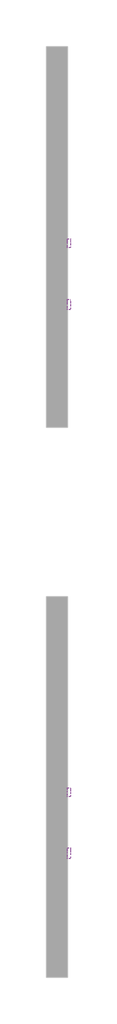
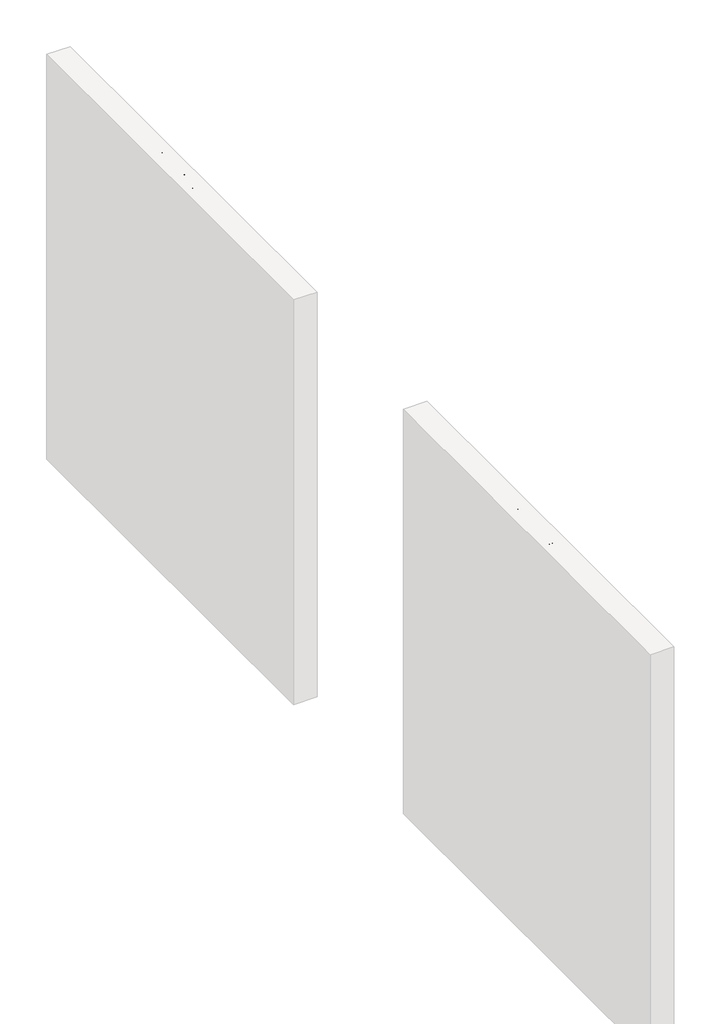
# One storey, part 6 of 10: 4 proxies.
"""IFC4 building model written with IfcOpenShell, lengths in millimetres."""

from ifc_helpers import new_model, si_unit, frame, origin, place, context, project, spatial, polyline, outline, extrude, element, save

model = new_model("IFC4")

# Units and contexts
model_context = context("Model", 3, world=origin())
ifc_project = project(units=[si_unit("LENGTHUNIT", "METRE", prefix="MILLI")], contexts=[model_context])

# Site, building, storey
site = spatial("IfcSite", under=ifc_project)
building = spatial("IfcBuilding", under=site)
storey = spatial("IfcBuildingStorey", under=building, Name="PORTOBELLO - SHOWROOM", Elevation=0.0)

# Proxies
placement = place(None, origin())
element("IfcBuildingElementProxy", 1, Name="10mm Arial", ObjectType="10mm Arial", at=placement, inside=storey, context=model_context, shape_type="SweptSolid", body=[
    extrude(outline(polyline([(721.5221036, 2576.9310806), (734.0791424, 2578.5497614), (738.371099, 2563.7118542), (748.9661005, 2559.7142032), (757.5622764, 2561.9828089), (762.5409461, 2568.1632264), (763.9021095, 2580.6099005), (763.9021095, 2649.1831044), (776.4591482, 2649.1831044), (776.4591482, 2580.8306297), (773.4302531, 2561.3206213), (763.8162703, 2550.7869335), (748.3774893, 2547.1571645), (736.7708123, 2549.0302969), (728.2420814, 2554.6496944), (723.067208, 2563.9663059), (721.5221036, 2576.9310806)])), frame((151543.1527225, 0.0, 0.0), z_axis=(1.0, 0.0, 0.0), x_axis=(0.0, 1.0, 0.0)), (0.0, 0.0, 1.0), 20.0),
    extrude(outline(polyline([(843.9532316, 2558.1445734), (831.7763376, 2549.6342366), (818.3241193, 2547.1571645), (807.8302854, 2548.6470865), (800.0894351, 2553.1168528), (795.3161662, 2559.9042756), (793.7250765, 2568.3471674), (796.1285722, 2578.2799812), (802.4438798, 2585.4904683), (811.2362595, 2589.6107467), (822.1010411, 2591.4992076), (843.8796552, 2595.8156897), (843.9532316, 2598.6115928), (840.4951409, 2607.8822191), (826.6137269, 2611.5119881), (813.9095353, 2609.0962297), (807.8517452, 2600.5245792), (795.2947064, 2602.0942091), (800.7270972, 2614.3569422), (811.6654552, 2621.5429039), (828.2324077, 2624.0690269), (843.4504596, 2621.8372095), (852.0466355, 2616.2331404), (855.8971337, 2607.7105409), (856.5102704, 2596.7231319), (856.5102704, 2581.1004099), (857.1479325, 2559.2850076), (859.6495301, 2548.7267943), (847.0924913, 2548.7267943), (843.9532316, 2558.1445734)]), holes=[polyline([(843.9532316, 2583.2586509), (823.6951964, 2579.4081527), (812.8917285, 2577.372539), (807.998898, 2574.061601), (806.2821153, 2569.2300842), (810.0222489, 2562.43653), (820.9973951, 2559.7142032), (833.7015867, 2562.7185728), (841.8930924, 2569.9903736), (843.8796552, 2579.7024583), (843.9532316, 2583.2586509)])]), frame((151543.1527225, 0.0, 0.0), z_axis=(1.0, 0.0, 0.0), x_axis=(0.0, 1.0, 0.0)), (0.0, 0.0, 1.0), 20.0),
    extrude(outline(polyline([(920.8650941, 2575.4105017), (933.4221328, 2573.8408718), (929.9211225, 2562.6725876), (923.3421662, 2554.2327615), (914.3045318, 2548.9260637), (903.4274875, 2547.1571645), (890.0703054, 2549.6250395), (879.6255224, 2557.0286647), (872.8840849, 2569.0430775), (870.636939, 2585.3433156), (874.4751745, 2606.2022247), (886.1738219, 2619.605392), (903.2558092, 2624.0690269), (913.8661391, 2622.5361853), (922.3488848, 2617.9376603), (928.4342661, 2610.5187068), (931.852503, 2600.5245792), (919.2954642, 2598.9549494), (913.470666, 2608.3604657), (903.3539111, 2611.5119881), (895.2390474, 2609.9607524), (888.7980468, 2605.3070452), (884.594995, 2597.2994804), (883.1939778, 2585.6866721), (884.5643382, 2573.9175139), (888.6754195, 2565.882358), (894.9999241, 2561.2562419), (903.0105546, 2559.7142032), (914.8440921, 2563.5647014), (920.8650941, 2575.4105017)])), frame((151543.1527225, 0.0, 0.0), z_axis=(1.0, 0.0, 0.0), x_axis=(0.0, 1.0, 0.0)), (0.0, 0.0, 1.0), 20.0),
    extrude(outline(polyline([(991.4984371, 2558.1445734), (979.3215431, 2549.6342366), (965.8693248, 2547.1571645), (955.3754909, 2548.6470865), (947.6346406, 2553.1168528), (942.8613717, 2559.9042756), (941.2702821, 2568.3471674), (943.6737778, 2578.2799812), (949.9890854, 2585.4904683), (958.781465, 2589.6107467), (969.6462466, 2591.4992076), (991.4248608, 2595.8156897), (991.4984371, 2598.6115928), (988.0403464, 2607.8822191), (974.1589324, 2611.5119881), (961.4547409, 2609.0962297), (955.3969507, 2600.5245792), (942.8399119, 2602.0942091), (948.2723027, 2614.3569422), (959.2106607, 2621.5429039), (975.7776132, 2624.0690269), (990.9956651, 2621.8372095), (999.591841, 2616.2331404), (1003.4423393, 2607.7105409), (1004.0554759, 2596.7231319), (1004.0554759, 2581.1004099), (1004.693138, 2559.2850076), (1007.1947356, 2548.7267943), (994.6376968, 2548.7267943), (991.4984371, 2558.1445734)]), holes=[polyline([(991.4984371, 2583.2586509), (971.2404019, 2579.4081527), (960.436934, 2577.372539), (955.5441035, 2574.061601), (953.8273208, 2569.2300842), (957.5674545, 2562.43653), (968.5426007, 2559.7142032), (981.2467922, 2562.7185728), (989.438298, 2569.9903736), (991.4248608, 2579.7024583), (991.4984371, 2583.2586509)])]), frame((151543.1527225, 0.0, 0.0), z_axis=(1.0, 0.0, 0.0), x_axis=(0.0, 1.0, 0.0)), (0.0, 0.0, 1.0), 20.0),
    extrude(outline(polyline([(1021.3214042, 2548.7267943), (1021.3214042, 2622.4993971), (1032.3088131, 2622.4993971), (1032.3088131, 2611.5855645), (1040.1079114, 2621.6410057), (1047.9560607, 2624.0690269), (1060.5621504, 2620.1940032), (1056.3682956, 2608.9368142), (1047.5391277, 2611.5119881), (1040.4390052, 2609.034916), (1035.9140567, 2602.1677855), (1033.878443, 2587.5015566), (1033.878443, 2548.7267943), (1021.3214042, 2548.7267943)])), frame((151543.1527225, 0.0, 0.0), z_axis=(1.0, 0.0, 0.0), x_axis=(0.0, 1.0, 0.0)), (0.0, 0.0, 1.0), 20.0),
    extrude(outline(polyline([(1115.499195, 2558.1445734), (1103.3223009, 2549.6342366), (1089.8700827, 2547.1571645), (1079.3762487, 2548.6470865), (1071.6353984, 2553.1168528), (1066.8621295, 2559.9042756), (1065.2710399, 2568.3471674), (1067.6745356, 2578.2799812), (1073.9898432, 2585.4904683), (1082.7822229, 2589.6107467), (1093.6470045, 2591.4992076), (1115.4256186, 2595.8156897), (1115.499195, 2598.6115928), (1112.0411042, 2607.8822191), (1098.1596903, 2611.5119881), (1085.4554987, 2609.0962297), (1079.3977085, 2600.5245792), (1066.8406698, 2602.0942091), (1072.2730606, 2614.3569422), (1083.2114185, 2621.5429039), (1099.7783711, 2624.0690269), (1114.9964229, 2621.8372095), (1123.5925989, 2616.2331404), (1127.4430971, 2607.7105409), (1128.0562338, 2596.7231319), (1128.0562338, 2581.1004099), (1128.6938959, 2559.2850076), (1131.1954935, 2548.7267943), (1118.6384547, 2548.7267943), (1115.499195, 2558.1445734)]), holes=[polyline([(1115.499195, 2583.2586509), (1095.2411598, 2579.4081527), (1084.4376919, 2577.372539), (1079.5448613, 2574.061601), (1077.8280787, 2569.2300842), (1081.5682123, 2562.43653), (1092.5433585, 2559.7142032), (1105.2475501, 2562.7185728), (1113.4390558, 2569.9903736), (1115.4256186, 2579.7024583), (1115.499195, 2583.2586509)])]), frame((151543.1527225, 0.0, 0.0), z_axis=(1.0, 0.0, 0.0), x_axis=(0.0, 1.0, 0.0)), (0.0, 0.0, 1.0), 20.0),
    extrude(outline(polyline([(1145.3221621, 2548.7267943), (1145.3221621, 2622.4993971), (1157.8792008, 2622.4993971), (1157.8792008, 2612.1987012), (1167.4809209, 2621.1014455), (1180.5897827, 2624.0690269), (1192.4478456, 2621.6777939), (1200.5412495, 2615.3992746), (1204.3059086, 2606.1654365), (1204.9680962, 2594.0253306), (1204.9680962, 2548.7267943), (1192.4110574, 2548.7267943), (1192.4110574, 2592.3330735), (1190.9640549, 2603.4431097), (1185.8504952, 2609.3169589), (1177.2297938, 2611.5119881), (1163.6058972, 2606.5823694), (1159.3108749, 2599.4393273), (1157.8792008, 2587.8694386), (1157.8792008, 2548.7267943), (1145.3221621, 2548.7267943)])), frame((151543.1527225, 0.0, 0.0), z_axis=(1.0, 0.0, 0.0), x_axis=(0.0, 1.0, 0.0)), (0.0, 0.0, 1.0), 20.0),
    extrude(outline(polyline([(1267.7532901, 2548.7267943), (1267.7532901, 2560.5725945), (1259.4452883, 2550.511022), (1247.9612387, 2547.1571645), (1232.4120931, 2552.0132068), (1221.4246841, 2565.5635269), (1217.525135, 2585.5395193), (1221.1181158, 2605.5277744), (1231.8847955, 2619.286561), (1247.9121878, 2624.0690269), (1259.4882079, 2620.6477244), (1267.7532901, 2611.7572428), (1267.7532901, 2649.1831044), (1280.3103288, 2649.1831044), (1280.3103288, 2548.7267943), (1267.7532901, 2548.7267943)]), holes=[polyline([(1230.0821738, 2585.5885702), (1231.4985194, 2574.2302136), (1235.7475565, 2566.1521381), (1241.9218426, 2561.3236869), (1249.1139356, 2559.7142032), (1256.302963, 2561.2501106), (1262.3208993, 2565.8578325), (1266.3951924, 2573.6232083), (1267.7532901, 2584.632077), (1266.3706669, 2596.6679496), (1262.2227974, 2605.0127396), (1256.0515769, 2609.887176), (1248.5989008, 2611.5119881), (1241.3332314, 2609.9515553), (1235.3796745, 2605.270257), (1231.4065489, 2597.2289697), (1230.0821738, 2585.5885702)])]), frame((151543.1527225, 0.0, 0.0), z_axis=(1.0, 0.0, 0.0), x_axis=(0.0, 1.0, 0.0)), (0.0, 0.0, 1.0), 20.0),
    extrude(outline(polyline([(1346.2347824, 2558.1445734), (1334.0578883, 2549.6342366), (1320.60567, 2547.1571645), (1310.1118361, 2548.6470865), (1302.3709858, 2553.1168528), (1297.5977169, 2559.9042756), (1296.0066273, 2568.3471674), (1298.410123, 2578.2799812), (1304.7254306, 2585.4904683), (1313.5178103, 2589.6107467), (1324.3825919, 2591.4992076), (1346.161206, 2595.8156897), (1346.2347824, 2598.6115928), (1342.7766916, 2607.8822191), (1328.8952777, 2611.5119881), (1316.1910861, 2609.0962297), (1310.1332959, 2600.5245792), (1297.5762571, 2602.0942091), (1303.0086479, 2614.3569422), (1313.9470059, 2621.5429039), (1330.5139584, 2624.0690269), (1345.7320103, 2621.8372095), (1354.3281863, 2616.2331404), (1358.1786845, 2607.7105409), (1358.7918211, 2596.7231319), (1358.7918211, 2581.1004099), (1359.4294833, 2559.2850076), (1361.9310808, 2548.7267943), (1349.3740421, 2548.7267943), (1346.2347824, 2558.1445734)]), holes=[polyline([(1346.2347824, 2583.2586509), (1325.9767472, 2579.4081527), (1315.1732792, 2577.372539), (1310.2804487, 2574.061601), (1308.5636661, 2569.2300842), (1312.3037997, 2562.43653), (1323.2789459, 2559.7142032), (1335.9831374, 2562.7185728), (1344.1746432, 2569.9903736), (1346.161206, 2579.7024583), (1346.2347824, 2583.2586509)])]), frame((151543.1527225, 0.0, 0.0), z_axis=(1.0, 0.0, 0.0), x_axis=(0.0, 1.0, 0.0)), (0.0, 0.0, 1.0), 20.0),
    extrude(outline(polyline([(1416.8681254, 2548.7267943), (1416.8681254, 2649.1831044), (1454.0977834, 2649.1831044), (1469.1073688, 2648.2266113), (1481.3087883, 2643.5299845), (1489.2182512, 2633.8178998), (1492.2103581, 2620.1204268), (1490.1900728, 2608.280758), (1484.1292169, 2598.4153891), (1472.7953858, 2591.756725), (1454.9561747, 2589.5371703), (1429.4251642, 2589.5371703), (1429.4251642, 2548.7267943), (1416.8681254, 2548.7267943)]), holes=[polyline([(1429.4251642, 2602.0942091), (1455.6919387, 2602.0942091), (1474.1841403, 2606.7049967), (1478.2860245, 2612.2538835), (1479.6533193, 2619.6789684), (1476.4282205, 2630.0777662), (1467.9546718, 2635.7676744), (1455.3976331, 2636.6260657), (1429.4251642, 2636.6260657), (1429.4251642, 2602.0942091)])]), frame((151543.1527225, 0.0, 0.0), z_axis=(1.0, 0.0, 0.0), x_axis=(0.0, 1.0, 0.0)), (0.0, 0.0, 1.0), 20.0),
    extrude(outline(polyline([(1554.9955519, 2558.1445734), (1542.8186579, 2549.6342366), (1529.3664396, 2547.1571645), (1518.8726057, 2548.6470865), (1511.1317553, 2553.1168528), (1506.3584864, 2559.9042756), (1504.7673968, 2568.3471674), (1507.1708925, 2578.2799812), (1513.4862001, 2585.4904683), (1522.2785798, 2589.6107467), (1533.1433614, 2591.4992076), (1554.9219755, 2595.8156897), (1554.9955519, 2598.6115928), (1551.5374611, 2607.8822191), (1537.6560472, 2611.5119881), (1524.9518556, 2609.0962297), (1518.8940654, 2600.5245792), (1506.3370267, 2602.0942091), (1511.7694175, 2614.3569422), (1522.7077755, 2621.5429039), (1539.274728, 2624.0690269), (1554.4927798, 2621.8372095), (1563.0889558, 2616.2331404), (1566.939454, 2607.7105409), (1567.5525907, 2596.7231319), (1567.5525907, 2581.1004099), (1568.1902528, 2559.2850076), (1570.6918504, 2548.7267943), (1558.1348116, 2548.7267943), (1554.9955519, 2558.1445734)]), holes=[polyline([(1554.9955519, 2583.2586509), (1534.7375167, 2579.4081527), (1523.9340488, 2577.372539), (1519.0412182, 2574.061601), (1517.3244356, 2569.2300842), (1521.0645692, 2562.43653), (1532.0397154, 2559.7142032), (1544.743907, 2562.7185728), (1552.9354127, 2569.9903736), (1554.9219755, 2579.7024583), (1554.9955519, 2583.2586509)])]), frame((151543.1527225, 0.0, 0.0), z_axis=(1.0, 0.0, 0.0), x_axis=(0.0, 1.0, 0.0)), (0.0, 0.0, 1.0), 20.0),
    extrude(outline(polyline([(1611.5022264, 2559.1991684), (1613.0718562, 2548.3589123), (1603.6786026, 2547.1571645), (1593.1571775, 2549.2418291), (1587.9087277, 2554.7110081), (1586.3881488, 2568.960304), (1586.3881488, 2609.9423583), (1576.9703697, 2609.9423583), (1576.9703697, 2622.4993971), (1586.3881488, 2622.4993971), (1586.3881488, 2640.427513), (1598.9451876, 2647.8096783), (1598.9451876, 2622.4993971), (1611.5022264, 2622.4993971), (1611.5022264, 2609.9423583), (1598.9451876, 2609.9423583), (1598.9451876, 2569.328186), (1599.6073752, 2562.8534629), (1601.7533535, 2560.5603318), (1606.0330474, 2559.7142032), (1611.5022264, 2559.1991684)])), frame((151543.1527225, 0.0, 0.0), z_axis=(1.0, 0.0, 0.0), x_axis=(0.0, 1.0, 0.0)), (0.0, 0.0, 1.0), 20.0),
    extrude(outline(polyline([(151563.1527225, 1636.6163039), (151563.1527225, 1624.0592651), (151543.1527225, 1624.0592651), (151543.1527225, 1636.6163039), (151563.1527225, 1636.6163039)])), frame((0.0, 0.0, 2636.6260657), z_axis=(0.0, 0.0, 1.0), x_axis=(1.0, 0.0, 0.0)), (0.0, 0.0, 1.0), 12.5570388),
    extrude(outline(polyline([(151563.1527225, 1636.6163039), (151563.1527225, 1624.0592651), (151543.1527225, 1624.0592651), (151543.1527225, 1636.6163039), (151563.1527225, 1636.6163039)])), frame((0.0, 0.0, 2548.7267943), z_axis=(0.0, 0.0, 1.0), x_axis=(1.0, 0.0, 0.0)), (0.0, 0.0, 1.0), 73.7726028),
    extrude(outline(polyline([(1655.451862, 2548.7267943), (1655.451862, 2622.4993971), (1668.0089008, 2622.4993971), (1668.0089008, 2612.1987012), (1677.6106209, 2621.1014455), (1690.7194826, 2624.0690269), (1702.5775456, 2621.6777939), (1710.6709495, 2615.3992746), (1714.4356086, 2606.1654365), (1715.0977962, 2594.0253306), (1715.0977962, 2548.7267943), (1702.5407574, 2548.7267943), (1702.5407574, 2592.3330735), (1701.0937549, 2603.4431097), (1695.9801952, 2609.3169589), (1687.3594938, 2611.5119881), (1673.7355972, 2606.5823694), (1669.4405749, 2599.4393273), (1668.0089008, 2587.8694386), (1668.0089008, 2548.7267943), (1655.451862, 2548.7267943)])), frame((151543.1527225, 0.0, 0.0), z_axis=(1.0, 0.0, 0.0), x_axis=(0.0, 1.0, 0.0)), (0.0, 0.0, 1.0), 20.0),
    extrude(outline(polyline([(1779.4526199, 2558.1445734), (1767.2757258, 2549.6342366), (1753.8235076, 2547.1571645), (1743.3296736, 2548.6470865), (1735.5888233, 2553.1168528), (1730.8155544, 2559.9042756), (1729.2244648, 2568.3471674), (1731.6279605, 2578.2799812), (1737.9432681, 2585.4904683), (1746.7356478, 2589.6107467), (1757.6004294, 2591.4992076), (1779.3790435, 2595.8156897), (1779.4526199, 2598.6115928), (1775.9945291, 2607.8822191), (1762.1131152, 2611.5119881), (1749.4089236, 2609.0962297), (1743.3511334, 2600.5245792), (1730.7940947, 2602.0942091), (1736.2264855, 2614.3569422), (1747.1648434, 2621.5429039), (1763.731796, 2624.0690269), (1778.9498478, 2621.8372095), (1787.5460238, 2616.2331404), (1791.396522, 2607.7105409), (1792.0096587, 2596.7231319), (1792.0096587, 2581.1004099), (1792.6473208, 2559.2850076), (1795.1489183, 2548.7267943), (1782.5918796, 2548.7267943), (1779.4526199, 2558.1445734)]), holes=[polyline([(1779.4526199, 2583.2586509), (1759.1945847, 2579.4081527), (1748.3911168, 2577.372539), (1743.4982862, 2574.061601), (1741.7815036, 2569.2300842), (1745.5216372, 2562.43653), (1756.4967834, 2559.7142032), (1769.200975, 2562.7185728), (1777.3924807, 2569.9903736), (1779.3790435, 2579.7024583), (1779.4526199, 2583.2586509)])]), frame((151543.1527225, 0.0, 0.0), z_axis=(1.0, 0.0, 0.0), x_axis=(0.0, 1.0, 0.0)), (0.0, 0.0, 1.0), 20.0),
])
element("IfcBuildingElementProxy", 2, Name="10mm Arial", ObjectType="10mm Arial", at=placement, inside=storey, context=model_context, shape_type="SweptSolid", body=[
    extrude(outline(polyline([(4612.1637616, 2593.9314591), (4624.7208004, 2595.5501399), (4629.012757, 2580.7122327), (4639.6077585, 2576.7145817), (4648.2039344, 2578.9831874), (4653.1826041, 2585.1636049), (4654.5437675, 2597.610279), (4654.5437675, 2666.1834829), (4667.1008062, 2666.1834829), (4667.1008062, 2597.8310082), (4664.0719112, 2578.3209998), (4654.4579283, 2567.787312), (4639.0191473, 2564.1575429), (4627.4124703, 2566.0306754), (4618.8837394, 2571.6500729), (4613.708866, 2580.9666844), (4612.1637616, 2593.9314591)])), frame((151543.1527225, 0.0, 0.0), z_axis=(1.0, 0.0, 0.0), x_axis=(0.0, 1.0, 0.0)), (0.0, 0.0, 1.0), 20.0),
    extrude(outline(polyline([(4734.5948896, 2575.1449519), (4722.4179956, 2566.634615), (4708.9657773, 2564.1575429), (4698.4719434, 2565.647465), (4690.7310931, 2570.1172313), (4685.9578242, 2576.9046541), (4684.3667346, 2585.3475459), (4686.7702303, 2595.2803597), (4693.0855378, 2602.4908468), (4701.8779175, 2606.6111252), (4712.7426991, 2608.4995861), (4734.5213132, 2612.8160682), (4734.5948896, 2615.6119713), (4731.1367989, 2624.8825976), (4717.2553849, 2628.5123666), (4704.5511934, 2626.0966082), (4698.4934032, 2617.5249577), (4685.9363644, 2619.0945876), (4691.3687552, 2631.3573207), (4702.3071132, 2638.5432824), (4718.8740657, 2641.0694054), (4734.0921176, 2638.837588), (4742.6882935, 2633.2335189), (4746.5387917, 2624.7109194), (4747.1519284, 2613.7235104), (4747.1519284, 2598.1007884), (4747.7895905, 2576.2853861), (4750.2911881, 2565.7271728), (4737.7341493, 2565.7271728), (4734.5948896, 2575.1449519)]), holes=[polyline([(4734.5948896, 2600.2590294), (4714.3368544, 2596.4085312), (4703.5333865, 2594.3729175), (4698.640556, 2591.0619795), (4696.9237733, 2586.2304627), (4700.6639069, 2579.4369085), (4711.6390531, 2576.7145817), (4724.3432447, 2579.7189513), (4732.5347505, 2586.9907521), (4734.5213132, 2596.7028368), (4734.5948896, 2600.2590294)])]), frame((151543.1527225, 0.0, 0.0), z_axis=(1.0, 0.0, 0.0), x_axis=(0.0, 1.0, 0.0)), (0.0, 0.0, 1.0), 20.0),
    extrude(outline(polyline([(4811.5067521, 2592.4108802), (4824.0637909, 2590.8412503), (4820.5627805, 2579.6729661), (4813.9838242, 2571.23314), (4804.9461898, 2565.9264422), (4794.0691455, 2564.1575429), (4780.7119634, 2566.625418), (4770.2671804, 2574.0290432), (4763.5257429, 2586.043456), (4761.278597, 2602.343694), (4765.1168325, 2623.2026032), (4776.8154799, 2636.6057705), (4793.8974673, 2641.0694054), (4804.5077971, 2639.5365638), (4812.9905428, 2634.9380388), (4819.0759241, 2627.5190853), (4822.494161, 2617.5249577), (4809.9371222, 2615.9553279), (4804.112324, 2625.3608442), (4793.9955691, 2628.5123666), (4785.8807054, 2626.9611309), (4779.4397048, 2622.3074237), (4775.236653, 2614.2998589), (4773.8356358, 2602.6870506), (4775.2059962, 2590.9178924), (4779.3170775, 2582.8827365), (4785.6415821, 2578.2566204), (4793.6522126, 2576.7145817), (4805.4857501, 2580.5650799), (4811.5067521, 2592.4108802)])), frame((151543.1527225, 0.0, 0.0), z_axis=(1.0, 0.0, 0.0), x_axis=(0.0, 1.0, 0.0)), (0.0, 0.0, 1.0), 20.0),
    extrude(outline(polyline([(4882.1400952, 2575.1449519), (4869.9632011, 2566.634615), (4856.5109828, 2564.1575429), (4846.0171489, 2565.647465), (4838.2762986, 2570.1172313), (4833.5030297, 2576.9046541), (4831.9119401, 2585.3475459), (4834.3154358, 2595.2803597), (4840.6307434, 2602.4908468), (4849.4231231, 2606.6111252), (4860.2879046, 2608.4995861), (4882.0665188, 2612.8160682), (4882.1400952, 2615.6119713), (4878.6820044, 2624.8825976), (4864.8005905, 2628.5123666), (4852.0963989, 2626.0966082), (4846.0386087, 2617.5249577), (4833.4815699, 2619.0945876), (4838.9139607, 2631.3573207), (4849.8523187, 2638.5432824), (4866.4192712, 2641.0694054), (4881.6373231, 2638.837588), (4890.2334991, 2633.2335189), (4894.0839973, 2624.7109194), (4894.6971339, 2613.7235104), (4894.6971339, 2598.1007884), (4895.3347961, 2576.2853861), (4897.8363936, 2565.7271728), (4885.2793549, 2565.7271728), (4882.1400952, 2575.1449519)]), holes=[polyline([(4882.1400952, 2600.2590294), (4861.88206, 2596.4085312), (4851.078592, 2594.3729175), (4846.1857615, 2591.0619795), (4844.4689789, 2586.2304627), (4848.2091125, 2579.4369085), (4859.1842587, 2576.7145817), (4871.8884502, 2579.7189513), (4880.079956, 2586.9907521), (4882.0665188, 2596.7028368), (4882.1400952, 2600.2590294)])]), frame((151543.1527225, 0.0, 0.0), z_axis=(1.0, 0.0, 0.0), x_axis=(0.0, 1.0, 0.0)), (0.0, 0.0, 1.0), 20.0),
    extrude(outline(polyline([(4911.9630622, 2565.7271728), (4911.9630622, 2639.4997756), (4922.9504712, 2639.4997756), (4922.9504712, 2628.585943), (4930.7495695, 2638.6413842), (4938.5977187, 2641.0694054), (4951.2038084, 2637.1943817), (4947.0099536, 2625.9371927), (4938.1807858, 2628.5123666), (4931.0806633, 2626.0352945), (4926.5557147, 2619.168164), (4924.520101, 2604.5019351), (4924.520101, 2565.7271728), (4911.9630622, 2565.7271728)])), frame((151543.1527225, 0.0, 0.0), z_axis=(1.0, 0.0, 0.0), x_axis=(0.0, 1.0, 0.0)), (0.0, 0.0, 1.0), 20.0),
    extrude(outline(polyline([(5006.140853, 2575.1449519), (4993.963959, 2566.634615), (4980.5117407, 2564.1575429), (4970.0179068, 2565.647465), (4962.2770564, 2570.1172313), (4957.5037876, 2576.9046541), (4955.9126979, 2585.3475459), (4958.3161936, 2595.2803597), (4964.6315012, 2602.4908468), (4973.4238809, 2606.6111252), (4984.2886625, 2608.4995861), (5006.0672766, 2612.8160682), (5006.140853, 2615.6119713), (5002.6827622, 2624.8825976), (4988.8013483, 2628.5123666), (4976.0971567, 2626.0966082), (4970.0393665, 2617.5249577), (4957.4823278, 2619.0945876), (4962.9147186, 2631.3573207), (4973.8530766, 2638.5432824), (4990.4200291, 2641.0694054), (5005.6380809, 2638.837588), (5014.2342569, 2633.2335189), (5018.0847551, 2624.7109194), (5018.6978918, 2613.7235104), (5018.6978918, 2598.1007884), (5019.3355539, 2576.2853861), (5021.8371515, 2565.7271728), (5009.2801127, 2565.7271728), (5006.140853, 2575.1449519)]), holes=[polyline([(5006.140853, 2600.2590294), (4985.8828178, 2596.4085312), (4975.0793499, 2594.3729175), (4970.1865193, 2591.0619795), (4968.4697367, 2586.2304627), (4972.2098703, 2579.4369085), (4983.1850165, 2576.7145817), (4995.8892081, 2579.7189513), (5004.0807138, 2586.9907521), (5006.0672766, 2596.7028368), (5006.140853, 2600.2590294)])]), frame((151543.1527225, 0.0, 0.0), z_axis=(1.0, 0.0, 0.0), x_axis=(0.0, 1.0, 0.0)), (0.0, 0.0, 1.0), 20.0),
    extrude(outline(polyline([(5035.9638201, 2565.7271728), (5035.9638201, 2639.4997756), (5048.5208588, 2639.4997756), (5048.5208588, 2629.1990797), (5058.1225789, 2638.101824), (5071.2314407, 2641.0694054), (5083.0895037, 2638.6781724), (5091.1829076, 2632.3996531), (5094.9475666, 2623.165815), (5095.6097542, 2611.0257091), (5095.6097542, 2565.7271728), (5083.0527155, 2565.7271728), (5083.0527155, 2609.333452), (5081.6057129, 2620.4434882), (5076.4921532, 2626.3173374), (5067.8714518, 2628.5123666), (5054.2475552, 2623.5827479), (5049.9525329, 2616.4397058), (5048.5208588, 2604.8698171), (5048.5208588, 2565.7271728), (5035.9638201, 2565.7271728)])), frame((151543.1527225, 0.0, 0.0), z_axis=(1.0, 0.0, 0.0), x_axis=(0.0, 1.0, 0.0)), (0.0, 0.0, 1.0), 20.0),
    extrude(outline(polyline([(5158.3949481, 2565.7271728), (5158.3949481, 2577.572973), (5150.0869463, 2567.5114005), (5138.6028967, 2564.1575429), (5123.0537511, 2569.0135853), (5112.0663421, 2582.5639054), (5108.166793, 2602.5398978), (5111.7597738, 2622.5281528), (5122.5264535, 2636.2869395), (5138.5538458, 2641.0694054), (5150.1298659, 2637.6481029), (5158.3949481, 2628.7576213), (5158.3949481, 2666.1834829), (5170.9519868, 2666.1834829), (5170.9519868, 2565.7271728), (5158.3949481, 2565.7271728)]), holes=[polyline([(5120.7238318, 2602.5889487), (5122.1401774, 2591.2305921), (5126.3892145, 2583.1525166), (5132.5635006, 2578.3240654), (5139.7555937, 2576.7145817), (5146.944621, 2578.250489), (5152.9625573, 2582.858211), (5157.0368504, 2590.6235868), (5158.3949481, 2601.6324555), (5157.0123249, 2613.6683281), (5152.8644554, 2622.0131181), (5146.6932349, 2626.8875545), (5139.2405589, 2628.5123666), (5131.9748895, 2626.9519338), (5126.0213325, 2622.2706355), (5122.0482069, 2614.2293482), (5120.7238318, 2602.5889487)])]), frame((151543.1527225, 0.0, 0.0), z_axis=(1.0, 0.0, 0.0), x_axis=(0.0, 1.0, 0.0)), (0.0, 0.0, 1.0), 20.0),
    extrude(outline(polyline([(5236.8764404, 2575.1449519), (5224.6995463, 2566.634615), (5211.247328, 2564.1575429), (5200.7534941, 2565.647465), (5193.0126438, 2570.1172313), (5188.2393749, 2576.9046541), (5186.6482853, 2585.3475459), (5189.051781, 2595.2803597), (5195.3670886, 2602.4908468), (5204.1594683, 2606.6111252), (5215.0242499, 2608.4995861), (5236.802864, 2612.8160682), (5236.8764404, 2615.6119713), (5233.4183496, 2624.8825976), (5219.5369357, 2628.5123666), (5206.8327441, 2626.0966082), (5200.7749539, 2617.5249577), (5188.2179151, 2619.0945876), (5193.6503059, 2631.3573207), (5204.5886639, 2638.5432824), (5221.1556164, 2641.0694054), (5236.3736683, 2638.837588), (5244.9698443, 2633.2335189), (5248.8203425, 2624.7109194), (5249.4334791, 2613.7235104), (5249.4334791, 2598.1007884), (5250.0711413, 2576.2853861), (5252.5727388, 2565.7271728), (5240.0157001, 2565.7271728), (5236.8764404, 2575.1449519)]), holes=[polyline([(5236.8764404, 2600.2590294), (5216.6184052, 2596.4085312), (5205.8149373, 2594.3729175), (5200.9221067, 2591.0619795), (5199.2053241, 2586.2304627), (5202.9454577, 2579.4369085), (5213.9206039, 2576.7145817), (5226.6247954, 2579.7189513), (5234.8163012, 2586.9907521), (5236.802864, 2596.7028368), (5236.8764404, 2600.2590294)])]), frame((151543.1527225, 0.0, 0.0), z_axis=(1.0, 0.0, 0.0), x_axis=(0.0, 1.0, 0.0)), (0.0, 0.0, 1.0), 20.0),
    extrude(outline(polyline([(5307.5097835, 2565.7271728), (5307.5097835, 2666.1834829), (5344.7394414, 2666.1834829), (5359.7490268, 2665.2269898), (5371.9504463, 2660.530363), (5379.8599092, 2650.8182783), (5382.8520161, 2637.1208053), (5380.8317308, 2625.2811364), (5374.7708749, 2615.4157676), (5363.4370438, 2608.7571035), (5345.5978327, 2606.5375488), (5320.0668222, 2606.5375488), (5320.0668222, 2565.7271728), (5307.5097835, 2565.7271728)]), holes=[polyline([(5320.0668222, 2619.0945876), (5346.3335967, 2619.0945876), (5364.8257983, 2623.7053752), (5368.9276825, 2629.254262), (5370.2949773, 2636.6793469), (5367.0698785, 2647.0781447), (5358.5963298, 2652.7680529), (5346.0392911, 2653.6264442), (5320.0668222, 2653.6264442), (5320.0668222, 2619.0945876)])]), frame((151543.1527225, 0.0, 0.0), z_axis=(1.0, 0.0, 0.0), x_axis=(0.0, 1.0, 0.0)), (0.0, 0.0, 1.0), 20.0),
    extrude(outline(polyline([(5445.6372099, 2575.1449519), (5433.4603159, 2566.634615), (5420.0080976, 2564.1575429), (5409.5142637, 2565.647465), (5401.7734133, 2570.1172313), (5397.0001445, 2576.9046541), (5395.4090548, 2585.3475459), (5397.8125505, 2595.2803597), (5404.1278581, 2602.4908468), (5412.9202378, 2606.6111252), (5423.7850194, 2608.4995861), (5445.5636335, 2612.8160682), (5445.6372099, 2615.6119713), (5442.1791192, 2624.8825976), (5428.2977052, 2628.5123666), (5415.5935136, 2626.0966082), (5409.5357234, 2617.5249577), (5396.9786847, 2619.0945876), (5402.4110755, 2631.3573207), (5413.3494335, 2638.5432824), (5429.916386, 2641.0694054), (5445.1344378, 2638.837588), (5453.7306138, 2633.2335189), (5457.581112, 2624.7109194), (5458.1942487, 2613.7235104), (5458.1942487, 2598.1007884), (5458.8319108, 2576.2853861), (5461.3335084, 2565.7271728), (5448.7764696, 2565.7271728), (5445.6372099, 2575.1449519)]), holes=[polyline([(5445.6372099, 2600.2590294), (5425.3791747, 2596.4085312), (5414.5757068, 2594.3729175), (5409.6828762, 2591.0619795), (5407.9660936, 2586.2304627), (5411.7062272, 2579.4369085), (5422.6813734, 2576.7145817), (5435.385565, 2579.7189513), (5443.5770707, 2586.9907521), (5445.5636335, 2596.7028368), (5445.6372099, 2600.2590294)])]), frame((151543.1527225, 0.0, 0.0), z_axis=(1.0, 0.0, 0.0), x_axis=(0.0, 1.0, 0.0)), (0.0, 0.0, 1.0), 20.0),
    extrude(outline(polyline([(5502.1438844, 2576.1995469), (5503.7135142, 2565.3592908), (5494.3202606, 2564.1575429), (5483.7988355, 2566.2422076), (5478.5503857, 2571.7113866), (5477.0298068, 2585.9606825), (5477.0298068, 2626.9427368), (5467.6120278, 2626.9427368), (5467.6120278, 2639.4997756), (5477.0298068, 2639.4997756), (5477.0298068, 2657.4278915), (5489.5868456, 2664.8100568), (5489.5868456, 2639.4997756), (5502.1438844, 2639.4997756), (5502.1438844, 2626.9427368), (5489.5868456, 2626.9427368), (5489.5868456, 2586.3285645), (5490.2490332, 2579.8538414), (5492.3950115, 2577.5607103), (5496.6747054, 2576.7145817), (5502.1438844, 2576.1995469)])), frame((151543.1527225, 0.0, 0.0), z_axis=(1.0, 0.0, 0.0), x_axis=(0.0, 1.0, 0.0)), (0.0, 0.0, 1.0), 20.0),
    extrude(outline(polyline([(151563.1527225, 5527.2579619), (151563.1527225, 5514.7009231), (151543.1527225, 5514.7009231), (151543.1527225, 5527.2579619), (151563.1527225, 5527.2579619)])), frame((0.0, 0.0, 2653.6264442), z_axis=(0.0, 0.0, 1.0), x_axis=(1.0, 0.0, 0.0)), (0.0, 0.0, 1.0), 12.5570388),
    extrude(outline(polyline([(151563.1527225, 5527.2579619), (151563.1527225, 5514.7009231), (151543.1527225, 5514.7009231), (151543.1527225, 5527.2579619), (151563.1527225, 5527.2579619)])), frame((0.0, 0.0, 2565.7271728), z_axis=(0.0, 0.0, 1.0), x_axis=(1.0, 0.0, 0.0)), (0.0, 0.0, 1.0), 73.7726028),
    extrude(outline(polyline([(5546.0935201, 2565.7271728), (5546.0935201, 2639.4997756), (5558.6505588, 2639.4997756), (5558.6505588, 2629.1990797), (5568.2522789, 2638.101824), (5581.3611407, 2641.0694054), (5593.2192036, 2638.6781724), (5601.3126075, 2632.3996531), (5605.0772666, 2623.165815), (5605.7394542, 2611.0257091), (5605.7394542, 2565.7271728), (5593.1824154, 2565.7271728), (5593.1824154, 2609.333452), (5591.7354129, 2620.4434882), (5586.6218532, 2626.3173374), (5578.0011518, 2628.5123666), (5564.3772552, 2623.5827479), (5560.0822329, 2616.4397058), (5558.6505588, 2604.8698171), (5558.6505588, 2565.7271728), (5546.0935201, 2565.7271728)])), frame((151543.1527225, 0.0, 0.0), z_axis=(1.0, 0.0, 0.0), x_axis=(0.0, 1.0, 0.0)), (0.0, 0.0, 1.0), 20.0),
    extrude(outline(polyline([(5670.0942779, 2575.1449519), (5657.9173839, 2566.634615), (5644.4651656, 2564.1575429), (5633.9713317, 2565.647465), (5626.2304813, 2570.1172313), (5621.4572125, 2576.9046541), (5619.8661228, 2585.3475459), (5622.2696185, 2595.2803597), (5628.5849261, 2602.4908468), (5637.3773058, 2606.6111252), (5648.2420874, 2608.4995861), (5670.0207015, 2612.8160682), (5670.0942779, 2615.6119713), (5666.6361871, 2624.8825976), (5652.7547732, 2628.5123666), (5640.0505816, 2626.0966082), (5633.9927914, 2617.5249577), (5621.4357527, 2619.0945876), (5626.8681435, 2631.3573207), (5637.8065015, 2638.5432824), (5654.373454, 2641.0694054), (5669.5915058, 2638.837588), (5678.1876818, 2633.2335189), (5682.03818, 2624.7109194), (5682.6513167, 2613.7235104), (5682.6513167, 2598.1007884), (5683.2889788, 2576.2853861), (5685.7905764, 2565.7271728), (5673.2335376, 2565.7271728), (5670.0942779, 2575.1449519)]), holes=[polyline([(5670.0942779, 2600.2590294), (5649.8362427, 2596.4085312), (5639.0327748, 2594.3729175), (5634.1399442, 2591.0619795), (5632.4231616, 2586.2304627), (5636.1632952, 2579.4369085), (5647.1384414, 2576.7145817), (5659.842633, 2579.7189513), (5668.0341387, 2586.9907521), (5670.0207015, 2596.7028368), (5670.0942779, 2600.2590294)])]), frame((151543.1527225, 0.0, 0.0), z_axis=(1.0, 0.0, 0.0), x_axis=(0.0, 1.0, 0.0)), (0.0, 0.0, 1.0), 20.0),
])
element("IfcBuildingElementProxy", 3, Name="10mm Arial Narrow", ObjectType="10mm Arial Narrow", at=placement, inside=storey, context=model_context, shape_type="SweptSolid", body=[
    extrude(outline(polyline([(1855.1145226, 2548.7267943), (1855.1145226, 2649.4453981), (1886.4114073, 2649.4453981), (1902.7071088, 2647.5670773), (1914.1800949, 2638.0866341), (1918.4697734, 2621.0675253), (1916.683465, 2608.9916998), (1911.3245398, 2599.365306), (1901.580751, 2593.0640476), (1886.6398517, 2590.9636281), (1864.8614843, 2590.9636281), (1864.8614843, 2548.7267943), (1855.1145226, 2548.7267943)]), holes=[polyline([(1864.8614843, 2602.3350834), (1887.8328392, 2602.3350834), (1903.6970346, 2606.8658976), (1908.7228117, 2620.5344884), (1906.2479972, 2630.7002648), (1900.2703684, 2636.5002146), (1887.6043948, 2638.0739428), (1864.8614843, 2638.0739428), (1864.8614843, 2602.3350834)])]), frame((151543.1527225, 0.0, 0.0), z_axis=(1.0, 0.0, 0.0), x_axis=(0.0, 1.0, 0.0)), (0.0, 0.0, 1.0), 20.0),
    extrude(outline(polyline([(1926.5922414, 2585.2779005), (1928.5467103, 2601.868676), (1934.4101169, 2613.8207609), (1943.2686836, 2621.0453154), (1954.2086328, 2623.4535003), (1965.0216684, 2621.0453154), (1973.9056178, 2613.8207609), (1979.8451725, 2602.0590464), (1981.8250241, 2586.0393819), (1979.8800738, 2568.8774953), (1974.0452227, 2556.7350401), (1965.1961745, 2549.5104856), (1954.2086328, 2547.1023007), (1943.3480046, 2549.5168312), (1934.4735737, 2556.7604228), (1928.5625745, 2568.7188533), (1926.5922414, 2585.2779005)]), holes=[polyline([(1936.3392031, 2585.3032832), (1937.6432399, 2572.7515318), (1941.5553505, 2563.8802737), (1947.3965473, 2558.6070152), (1954.4878426, 2556.8492623), (1961.2079158, 2558.6228794), (1966.8999891, 2563.9437305), (1970.7835441, 2572.8308528), (1972.0780625, 2585.3032832), (1970.7740256, 2597.8169605), (1966.861915, 2606.6755273), (1961.0207183, 2611.9487858), (1953.9294229, 2613.7065387), (1947.1617572, 2611.9392673), (1941.4792024, 2606.6374532), (1937.6242029, 2597.769368), (1936.3392031, 2585.3032832)])]), frame((151543.1527225, 0.0, 0.0), z_axis=(1.0, 0.0, 0.0), x_axis=(0.0, 1.0, 0.0)), (0.0, 0.0, 1.0), 20.0),
    extrude(outline(polyline([(2053.3027429, 2556.8492623), (2054.9272365, 2547.1023007), (2047.5662499, 2547.1023007), (2039.2914855, 2549.2217572), (2034.9764244, 2555.021707), (2033.8088196, 2569.6675322), (2033.8088196, 2612.082045), (2025.6863516, 2612.082045), (2025.6863516, 2615.3310323), (2024.061858, 2610.4575514), (2016.4978096, 2612.082045), (2010.4186499, 2609.7595268), (2006.5477862, 2603.2742438), (2004.5679347, 2587.8669372), (2004.5679347, 2548.7267943), (1994.820973, 2548.7267943), (1994.820973, 2621.8290067), (2004.5679347, 2621.8290067), (2004.5679347, 2612.1328105), (2010.812082, 2621.2198216), (2017.2085255, 2623.4535003), (2025.6863516, 2621.8290067), (2033.8088196, 2621.8290067), (2033.8088196, 2638.0739428), (2043.5557813, 2646.1964108), (2043.5557813, 2621.8290067), (2053.3027429, 2621.8290067), (2053.3027429, 2612.082045), (2043.5557813, 2612.082045), (2043.5557813, 2567.4338535), (2044.4187935, 2559.438299), (2049.0384472, 2556.8492623), (2053.3027429, 2556.8492623)])), frame((151543.1527225, 0.0, 0.0), z_axis=(1.0, 0.0, 0.0), x_axis=(0.0, 1.0, 0.0)), (0.0, 0.0, 1.0), 20.0),
    extrude(outline(polyline([(2059.8007174, 2585.2779005), (2061.7551862, 2601.868676), (2067.6185929, 2613.8207609), (2076.4771596, 2621.0453154), (2087.4171087, 2623.4535003), (2098.2301443, 2621.0453154), (2107.1140937, 2613.8207609), (2113.0536485, 2602.0590464), (2115.0335001, 2586.0393819), (2113.0885497, 2568.8774953), (2107.2536986, 2556.7350401), (2098.4046504, 2549.5104856), (2087.4171087, 2547.1023007), (2076.5564805, 2549.5168312), (2067.6820496, 2556.7604228), (2061.7710504, 2568.7188533), (2059.8007174, 2585.2779005)]), holes=[polyline([(2069.547679, 2585.3032832), (2070.8517159, 2572.7515318), (2074.7638265, 2563.8802737), (2080.6050232, 2558.6070152), (2087.6963185, 2556.8492623), (2094.4163917, 2558.6228794), (2100.108465, 2563.9437305), (2103.9920201, 2572.8308528), (2105.2865384, 2585.3032832), (2103.9825015, 2597.8169605), (2100.070391, 2606.6755273), (2094.2291942, 2611.9487858), (2087.1378989, 2613.7065387), (2080.3702331, 2611.9392673), (2074.6876783, 2606.6374532), (2070.8326788, 2597.769368), (2069.547679, 2585.3032832)])]), frame((151543.1527225, 0.0, 0.0), z_axis=(1.0, 0.0, 0.0), x_axis=(0.0, 1.0, 0.0)), (0.0, 0.0, 1.0), 20.0),
    extrude(outline(polyline([(2137.7764106, 2548.7267943), (2128.0294489, 2548.7267943), (2128.0294489, 2649.4453981), (2137.7764106, 2649.4453981), (2137.7764106, 2614.0365139), (2145.1754713, 2621.1182907), (2154.3767047, 2623.4535003), (2167.2584313, 2619.2526614), (2176.5358128, 2606.523231), (2180.0132444, 2585.8363202), (2178.0809854, 2569.3819767), (2172.2842084, 2557.1792376), (2163.9110861, 2549.6215349), (2154.2497911, 2547.1023007), (2144.9089528, 2549.7167201), (2137.7764106, 2557.4838302), (2137.7764106, 2548.7267943)]), holes=[polyline([(2137.7764106, 2585.8363202), (2139.857793, 2568.5887669), (2145.7465824, 2559.8571138), (2154.1990257, 2556.8492623), (2160.1417533, 2558.6387436), (2165.3801106, 2564.0071873), (2170.2662828, 2585.4301968), (2165.5577896, 2606.8658976), (2160.3130866, 2611.9963784), (2153.995964, 2613.7065387), (2148.0183351, 2611.9170574), (2142.7260396, 2606.5486137), (2137.7764106, 2585.8363202)])]), frame((151543.1527225, 0.0, 0.0), z_axis=(1.0, 0.0, 0.0), x_axis=(0.0, 1.0, 0.0)), (0.0, 0.0, 1.0), 20.0),
    extrude(outline(polyline([(2231.9970399, 2571.4697048), (2241.7440016, 2569.8452112), (2238.0444712, 2559.9586446), (2232.2254843, 2552.8387937), (2224.521831, 2548.536424), (2215.1683014, 2547.1023007), (2203.5747474, 2549.5168312), (2194.4306252, 2556.7604228), (2188.4910704, 2568.5665571), (2186.5112189, 2584.6687154), (2188.500589, 2601.3356391), (2194.4686993, 2613.5161683), (2203.4827351, 2620.9691673), (2214.6098817, 2623.4535003), (2225.2928309, 2621.054834), (2234.0403483, 2613.8588349), (2239.8751993, 2602.1193303), (2241.8201497, 2586.0901473), (2241.7440016, 2582.8411601), (2196.2581805, 2582.8411601), (2202.261192, 2563.3980022), (2208.1912283, 2558.4864473), (2215.295215, 2556.8492623), (2225.4736828, 2560.504373), (2231.9970399, 2571.4697048)]), holes=[polyline([(2196.918131, 2592.5881217), (2231.9970399, 2592.5881217), (2227.7327442, 2606.8532062), (2221.9074116, 2611.9932056), (2214.6860299, 2613.7065387), (2202.4769451, 2607.9954283), (2196.918131, 2592.5881217)])]), frame((151543.1527225, 0.0, 0.0), z_axis=(1.0, 0.0, 0.0), x_axis=(0.0, 1.0, 0.0)), (0.0, 0.0, 1.0), 20.0),
    extrude(outline(polyline([(151563.1527225, 2264.4869121), (151563.1527225, 2254.7399504), (151543.1527225, 2254.7399504), (151543.1527225, 2264.4869121), (151563.1527225, 2264.4869121)])), frame((0.0, 0.0, 2548.7267943), z_axis=(0.0, 0.0, 1.0), x_axis=(1.0, 0.0, 0.0)), (0.0, 0.0, 1.0), 100.7186038),
    extrude(outline(polyline([(151563.1527225, 2290.4788098), (151563.1527225, 2280.7318482), (151543.1527225, 2280.7318482), (151543.1527225, 2290.4788098), (151563.1527225, 2290.4788098)])), frame((0.0, 0.0, 2548.7267943), z_axis=(0.0, 0.0, 1.0), x_axis=(1.0, 0.0, 0.0)), (0.0, 0.0, 1.0), 100.7186038),
    extrude(outline(polyline([(2301.8502651, 2585.2779005), (2303.804734, 2601.868676), (2309.6681406, 2613.8207609), (2318.5267073, 2621.0453154), (2329.4666564, 2623.4535003), (2340.279692, 2621.0453154), (2349.1636414, 2613.8207609), (2355.1031962, 2602.0590464), (2357.0830478, 2586.0393819), (2355.1380974, 2568.8774953), (2349.3032464, 2556.7350401), (2340.4541982, 2549.5104856), (2329.4666564, 2547.1023007), (2318.6060283, 2549.5168312), (2309.7315974, 2556.7604228), (2303.8205982, 2568.7188533), (2301.8502651, 2585.2779005)]), holes=[polyline([(2311.5972267, 2585.3032832), (2312.9012636, 2572.7515318), (2316.8133742, 2563.8802737), (2322.6545709, 2558.6070152), (2329.7458663, 2556.8492623), (2336.4659394, 2558.6228794), (2342.1580128, 2563.9437305), (2346.0415678, 2572.8308528), (2347.3360861, 2585.3032832), (2346.0320493, 2597.8169605), (2342.1199387, 2606.6755273), (2336.2787419, 2611.9487858), (2329.1874466, 2613.7065387), (2322.4197808, 2611.9392673), (2316.737226, 2606.6374532), (2312.8822266, 2597.769368), (2311.5972267, 2585.3032832)])]), frame((151543.1527225, 0.0, 0.0), z_axis=(1.0, 0.0, 0.0), x_axis=(0.0, 1.0, 0.0)), (0.0, 0.0, 1.0), 20.0),
])
element("IfcBuildingElementProxy", 4, Name="10mm Arial Narrow", ObjectType="10mm Arial Narrow", at=placement, inside=storey, context=model_context, shape_type="SweptSolid", body=[
    extrude(outline(polyline([(5745.7561806, 2565.7271728), (5745.7561806, 2666.4457765), (5777.0530653, 2666.4457765), (5793.3487668, 2664.5674558), (5804.821753, 2655.0870126), (5809.1114314, 2638.0679038), (5807.325123, 2625.9920783), (5801.9661978, 2616.3656845), (5792.222409, 2610.0644261), (5777.2815097, 2607.9640066), (5755.5031423, 2607.9640066), (5755.5031423, 2565.7271728), (5745.7561806, 2565.7271728)]), holes=[polyline([(5755.5031423, 2619.3354619), (5778.4744972, 2619.3354619), (5794.3386926, 2623.8662761), (5799.3644697, 2637.5348669), (5796.8896553, 2647.7006433), (5790.9120264, 2653.5005931), (5778.2460528, 2655.0743213), (5755.5031423, 2655.0743213), (5755.5031423, 2619.3354619)])]), frame((151543.1527225, 0.0, 0.0), z_axis=(1.0, 0.0, 0.0), x_axis=(0.0, 1.0, 0.0)), (0.0, 0.0, 1.0), 20.0),
    extrude(outline(polyline([(5817.2338994, 2602.278279), (5819.1883683, 2618.8690545), (5825.0517749, 2630.8211394), (5833.9103416, 2638.0456939), (5844.8502908, 2640.4538788), (5855.6633264, 2638.0456939), (5864.5472758, 2630.8211394), (5870.4868306, 2619.0594249), (5872.4666821, 2603.0397604), (5870.5217318, 2585.8778738), (5864.6868807, 2573.7354186), (5855.8378325, 2566.510864), (5844.8502908, 2564.1026792), (5833.9896626, 2566.5172097), (5825.1152317, 2573.7608013), (5819.2042325, 2585.7192318), (5817.2338994, 2602.278279)]), holes=[polyline([(5826.9808611, 2602.3036617), (5828.284898, 2589.7519103), (5832.1970085, 2580.8806522), (5838.0382053, 2575.6073937), (5845.1295006, 2573.8496408), (5851.8495738, 2575.6232579), (5857.5416471, 2580.944109), (5861.4252021, 2589.8312313), (5862.7197205, 2602.3036617), (5861.4156836, 2614.817339), (5857.503573, 2623.6759058), (5851.6623763, 2628.9491643), (5844.571081, 2630.7069172), (5837.8034152, 2628.9396458), (5832.1208604, 2623.6378317), (5828.2658609, 2614.7697465), (5826.9808611, 2602.3036617)])]), frame((151543.1527225, 0.0, 0.0), z_axis=(1.0, 0.0, 0.0), x_axis=(0.0, 1.0, 0.0)), (0.0, 0.0, 1.0), 20.0),
    extrude(outline(polyline([(5943.9444009, 2573.8496408), (5945.5688945, 2564.1026792), (5938.2079079, 2564.1026792), (5929.9331436, 2566.2221357), (5925.6180824, 2572.0220855), (5924.4504776, 2586.6679107), (5924.4504776, 2629.0824235), (5916.3280096, 2629.0824235), (5916.3280096, 2632.3314108), (5914.703516, 2627.4579299), (5907.1394676, 2629.0824235), (5901.0603079, 2626.7599053), (5897.1894443, 2620.2746223), (5895.2095927, 2604.8673157), (5895.2095927, 2565.7271728), (5885.462631, 2565.7271728), (5885.462631, 2638.8293852), (5895.2095927, 2638.8293852), (5895.2095927, 2629.133189), (5901.45374, 2638.2202001), (5907.8501836, 2640.4538788), (5916.3280096, 2638.8293852), (5924.4504776, 2638.8293852), (5924.4504776, 2655.0743213), (5934.1974393, 2663.1967893), (5934.1974393, 2638.8293852), (5943.9444009, 2638.8293852), (5943.9444009, 2629.0824235), (5934.1974393, 2629.0824235), (5934.1974393, 2584.434232), (5935.0604515, 2576.4386775), (5939.6801052, 2573.8496408), (5943.9444009, 2573.8496408)])), frame((151543.1527225, 0.0, 0.0), z_axis=(1.0, 0.0, 0.0), x_axis=(0.0, 1.0, 0.0)), (0.0, 0.0, 1.0), 20.0),
    extrude(outline(polyline([(5950.4423754, 2602.278279), (5952.3968442, 2618.8690545), (5958.2602509, 2630.8211394), (5967.1188176, 2638.0456939), (5978.0587667, 2640.4538788), (5988.8718023, 2638.0456939), (5997.7557517, 2630.8211394), (6003.6953065, 2619.0594249), (6005.6751581, 2603.0397604), (6003.7302077, 2585.8778738), (5997.8953566, 2573.7354186), (5989.0463085, 2566.510864), (5978.0587667, 2564.1026792), (5967.1981386, 2566.5172097), (5958.3237076, 2573.7608013), (5952.4127084, 2585.7192318), (5950.4423754, 2602.278279)]), holes=[polyline([(5960.189337, 2602.3036617), (5961.4933739, 2589.7519103), (5965.4054845, 2580.8806522), (5971.2466812, 2575.6073937), (5978.3379766, 2573.8496408), (5985.0580497, 2575.6232579), (5990.750123, 2580.944109), (5994.6336781, 2589.8312313), (5995.9281964, 2602.3036617), (5994.6241596, 2614.817339), (5990.712049, 2623.6759058), (5984.8708522, 2628.9491643), (5977.7795569, 2630.7069172), (5971.0118911, 2628.9396458), (5965.3293363, 2623.6378317), (5961.4743369, 2614.7697465), (5960.189337, 2602.3036617)])]), frame((151543.1527225, 0.0, 0.0), z_axis=(1.0, 0.0, 0.0), x_axis=(0.0, 1.0, 0.0)), (0.0, 0.0, 1.0), 20.0),
    extrude(outline(polyline([(6028.4180686, 2565.7271728), (6018.6711069, 2565.7271728), (6018.6711069, 2666.4457765), (6028.4180686, 2666.4457765), (6028.4180686, 2631.0368924), (6035.8171293, 2638.1186692), (6045.0183627, 2640.4538788), (6057.9000893, 2636.2530399), (6067.1774708, 2623.5236095), (6070.6549024, 2602.8366987), (6068.7226434, 2586.3823552), (6062.9258664, 2574.1796161), (6054.5527441, 2566.6219134), (6044.8914491, 2564.1026792), (6035.5506108, 2566.7170986), (6028.4180686, 2574.4842087), (6028.4180686, 2565.7271728)]), holes=[polyline([(6028.4180686, 2602.8366987), (6030.499451, 2585.5891454), (6036.3882404, 2576.8574923), (6044.8406837, 2573.8496408), (6050.7834113, 2575.6391221), (6056.0217686, 2581.0075658), (6060.9079408, 2602.4305753), (6056.1994476, 2623.8662761), (6050.9547446, 2628.9967569), (6044.637622, 2630.7069172), (6038.6599931, 2628.9174359), (6033.3676976, 2623.5489922), (6028.4180686, 2602.8366987)])]), frame((151543.1527225, 0.0, 0.0), z_axis=(1.0, 0.0, 0.0), x_axis=(0.0, 1.0, 0.0)), (0.0, 0.0, 1.0), 20.0),
    extrude(outline(polyline([(6122.6386979, 2588.4700833), (6132.3856596, 2586.8455897), (6128.6861292, 2576.9590231), (6122.8671423, 2569.8391722), (6115.163489, 2565.5368024), (6105.8099594, 2564.1026792), (6094.2164054, 2566.5172097), (6085.0722832, 2573.7608013), (6079.1327285, 2585.5669356), (6077.1528769, 2601.6690939), (6079.142247, 2618.3360176), (6085.1103573, 2630.5165468), (6094.1243931, 2637.9695458), (6105.2515398, 2640.4538788), (6115.9344889, 2638.0552125), (6124.6820063, 2630.8592134), (6130.5168574, 2619.1197088), (6132.4618077, 2603.0905258), (6132.3856596, 2599.8415386), (6086.8998385, 2599.8415386), (6092.9028501, 2580.3983807), (6098.8328863, 2575.4868258), (6105.936873, 2573.8496408), (6116.1153408, 2577.5047515), (6122.6386979, 2588.4700833)]), holes=[polyline([(6087.559789, 2609.5885002), (6122.6386979, 2609.5885002), (6118.3744022, 2623.8535847), (6112.5490696, 2628.993584), (6105.3276879, 2630.7069172), (6093.1186031, 2624.9958068), (6087.559789, 2609.5885002)])]), frame((151543.1527225, 0.0, 0.0), z_axis=(1.0, 0.0, 0.0), x_axis=(0.0, 1.0, 0.0)), (0.0, 0.0, 1.0), 20.0),
    extrude(outline(polyline([(151563.1527225, 6155.1285701), (151563.1527225, 6145.3816084), (151543.1527225, 6145.3816084), (151543.1527225, 6155.1285701), (151563.1527225, 6155.1285701)])), frame((0.0, 0.0, 2565.7271728), z_axis=(0.0, 0.0, 1.0), x_axis=(1.0, 0.0, 0.0)), (0.0, 0.0, 1.0), 100.7186038),
    extrude(outline(polyline([(151563.1527225, 6181.1204678), (151563.1527225, 6171.3735062), (151543.1527225, 6171.3735062), (151543.1527225, 6181.1204678), (151563.1527225, 6181.1204678)])), frame((0.0, 0.0, 2565.7271728), z_axis=(0.0, 0.0, 1.0), x_axis=(1.0, 0.0, 0.0)), (0.0, 0.0, 1.0), 100.7186038),
    extrude(outline(polyline([(6192.4919231, 2602.278279), (6194.446392, 2618.8690545), (6200.3097986, 2630.8211394), (6209.1683653, 2638.0456939), (6220.1083145, 2640.4538788), (6230.92135, 2638.0456939), (6239.8052995, 2630.8211394), (6245.7448542, 2619.0594249), (6247.7247058, 2603.0397604), (6245.7797554, 2585.8778738), (6239.9449044, 2573.7354186), (6231.0958562, 2566.510864), (6220.1083145, 2564.1026792), (6209.2476863, 2566.5172097), (6200.3732554, 2573.7608013), (6194.4622562, 2585.7192318), (6192.4919231, 2602.278279)]), holes=[polyline([(6202.2388848, 2602.3036617), (6203.5429216, 2589.7519103), (6207.4550322, 2580.8806522), (6213.2962289, 2575.6073937), (6220.3875243, 2573.8496408), (6227.1075975, 2575.6232579), (6232.7996708, 2580.944109), (6236.6832258, 2589.8312313), (6237.9777441, 2602.3036617), (6236.6737073, 2614.817339), (6232.7615967, 2623.6759058), (6226.9204, 2628.9491643), (6219.8291046, 2630.7069172), (6213.0614389, 2628.9396458), (6207.3788841, 2623.6378317), (6203.5238846, 2614.7697465), (6202.2388848, 2602.3036617)])]), frame((151543.1527225, 0.0, 0.0), z_axis=(1.0, 0.0, 0.0), x_axis=(0.0, 1.0, 0.0)), (0.0, 0.0, 1.0), 20.0),
])

save(model, "model.ifc")
